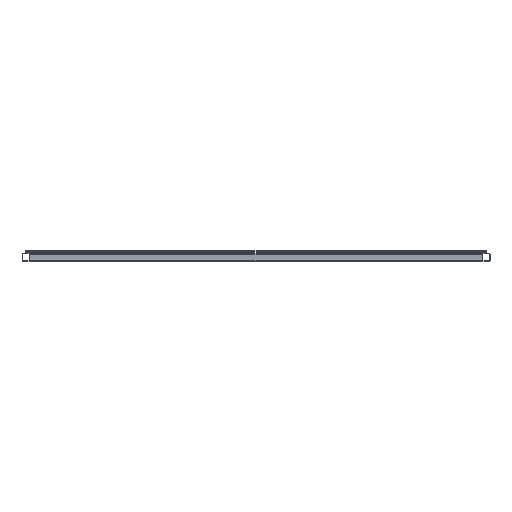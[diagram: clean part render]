
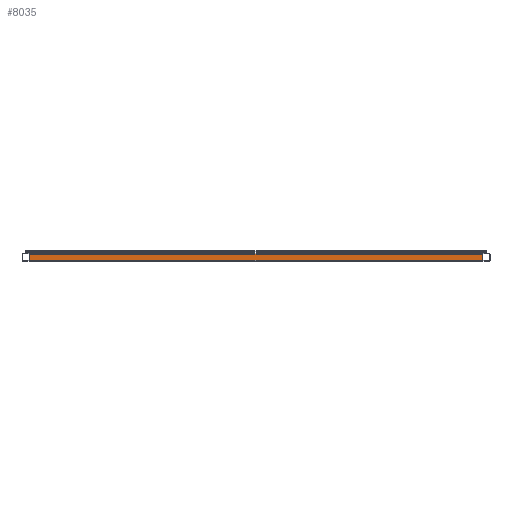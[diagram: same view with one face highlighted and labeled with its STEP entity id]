
A CAD part, front view. The second image highlights one B-rep face of the part: STEP entity #8035.
In plain terms, the highlighted planar face has unit normal (0, -1, 0).
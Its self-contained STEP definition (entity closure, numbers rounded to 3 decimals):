
#31 = ORIENTED_EDGE ( 'NONE', *, *, #5041, .T. ) ;
#286 = VERTEX_POINT ( 'NONE', #1590 ) ;
#508 = VECTOR ( 'NONE', #10349, 1000. ) ;
#627 = VERTEX_POINT ( 'NONE', #3966 ) ;
#932 = CARTESIAN_POINT ( 'NONE',  ( 580., -844., -8. ) ) ;
#984 = CARTESIAN_POINT ( 'NONE',  ( 600., -844., -8. ) ) ;
#1006 = CARTESIAN_POINT ( 'NONE',  ( 600., -844., -8. ) ) ;
#1019 = LINE ( 'NONE', #3510, #10602 ) ;
#1205 = CARTESIAN_POINT ( 'NONE',  ( 580., -844., -8. ) ) ;
#1582 = LINE ( 'NONE', #7155, #3265 ) ;
#1590 = CARTESIAN_POINT ( 'NONE',  ( -580., -844., -8. ) ) ;
#2163 = CARTESIAN_POINT ( 'NONE',  ( -580., -844., 8. ) ) ;
#2457 = DIRECTION ( 'NONE',  ( 0., 0., 1. ) ) ;
#2899 = FACE_OUTER_BOUND ( 'NONE', #3230, .T. ) ;
#3230 = EDGE_LOOP ( 'NONE', ( #4034, #4400, #6886, #31 ) ) ;
#3265 = VECTOR ( 'NONE', #9830, 1000. ) ;
#3271 = VERTEX_POINT ( 'NONE', #932 ) ;
#3467 = DIRECTION ( 'NONE',  ( -1., 0., 0. ) ) ;
#3477 = VERTEX_POINT ( 'NONE', #2163 ) ;
#3492 = DIRECTION ( 'NONE',  ( 0., 1., 0. ) ) ;
#3510 = CARTESIAN_POINT ( 'NONE',  ( -580., -844., -8. ) ) ;
#3966 = CARTESIAN_POINT ( 'NONE',  ( 580., -844., 8. ) ) ;
#4034 = ORIENTED_EDGE ( 'NONE', *, *, #8907, .F. ) ;
#4400 = ORIENTED_EDGE ( 'NONE', *, *, #6528, .F. ) ;
#4928 = EDGE_CURVE ( 'NONE', #627, #3271, #8577, .T. ) ;
#5041 = EDGE_CURVE ( 'NONE', #627, #3477, #1582, .T. ) ;
#6528 = EDGE_CURVE ( 'NONE', #3271, #286, #8250, .T. ) ;
#6886 = ORIENTED_EDGE ( 'NONE', *, *, #4928, .F. ) ;
#7155 = CARTESIAN_POINT ( 'NONE',  ( 600., -844., 8. ) ) ;
#7800 = VECTOR ( 'NONE', #3467, 1000. ) ;
#8035 = ADVANCED_FACE ( 'NONE', ( #2899 ), #9518, .F. ) ;
#8250 = LINE ( 'NONE', #984, #7800 ) ;
#8577 = LINE ( 'NONE', #1205, #508 ) ;
#8907 = EDGE_CURVE ( 'NONE', #286, #3477, #1019, .T. ) ;
#9223 = AXIS2_PLACEMENT_3D ( 'NONE', #1006, #3492, #10445 ) ;
#9518 = PLANE ( 'NONE',  #9223 ) ;
#9830 = DIRECTION ( 'NONE',  ( -1., 0., 0. ) ) ;
#10349 = DIRECTION ( 'NONE',  ( 0., 0., -1. ) ) ;
#10445 = DIRECTION ( 'NONE',  ( 0., 0., 1. ) ) ;
#10602 = VECTOR ( 'NONE', #2457, 1000. ) ;
